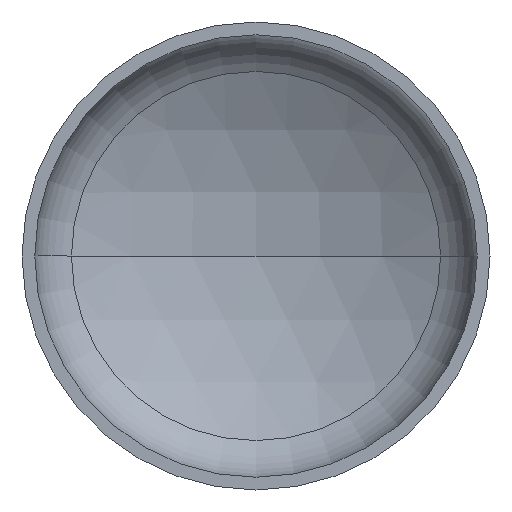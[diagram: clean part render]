
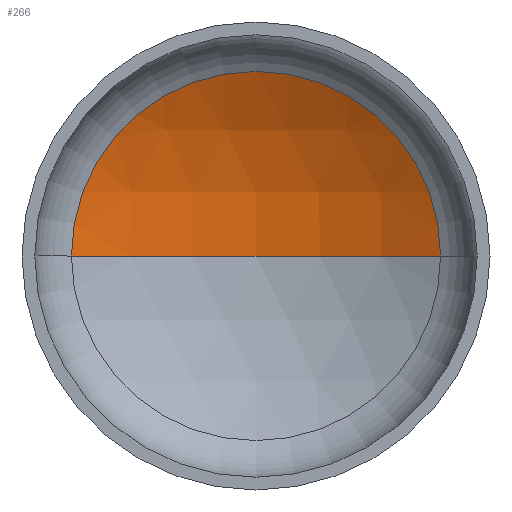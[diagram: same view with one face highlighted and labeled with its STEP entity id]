
A CAD part, front view. The second image highlights one B-rep face of the part: STEP entity #266.
In plain terms, the highlighted spherical face has radius 880 mm.
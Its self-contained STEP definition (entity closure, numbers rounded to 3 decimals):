
#10 = VERTEX_POINT ( 'NONE', #269 ) ;
#23 = EDGE_LOOP ( 'NONE', ( #116, #328, #131 ) ) ;
#34 = DIRECTION ( 'NONE',  ( 1., 0., 0. ) ) ;
#36 = DIRECTION ( 'NONE',  ( 0., 0., 1. ) ) ;
#40 = AXIS2_PLACEMENT_3D ( 'NONE', #173, #36, #34 ) ;
#42 = AXIS2_PLACEMENT_3D ( 'NONE', #388, #401, #399 ) ;
#47 = AXIS2_PLACEMENT_3D ( 'NONE', #256, #287, #286 ) ;
#52 = AXIS2_PLACEMENT_3D ( 'NONE', #220, #213, #218 ) ;
#57 = VERTEX_POINT ( 'NONE', #243 ) ;
#116 = ORIENTED_EDGE ( 'NONE', *, *, #198, .F. ) ;
#117 = VERTEX_POINT ( 'NONE', #315 ) ;
#122 = FACE_OUTER_BOUND ( 'NONE', #23, .T. ) ;
#131 = ORIENTED_EDGE ( 'NONE', *, *, #176, .T. ) ;
#173 = CARTESIAN_POINT ( 'NONE',  ( 0., -527.738, 0. ) ) ;
#176 = EDGE_CURVE ( 'NONE', #57, #117, #242, .T. ) ;
#185 = EDGE_CURVE ( 'NONE', #10, #57, #359, .T. ) ;
#198 = EDGE_CURVE ( 'NONE', #10, #117, #282, .T. ) ;
#213 = DIRECTION ( 'NONE',  ( 0., -1., 0. ) ) ;
#218 = DIRECTION ( 'NONE',  ( 1., 0., 0. ) ) ;
#220 = CARTESIAN_POINT ( 'NONE',  ( 0., 237.909, 0. ) ) ;
#242 = CIRCLE ( 'NONE', #52, 433.803 ) ;
#243 = CARTESIAN_POINT ( 'NONE',  ( 433.803, 237.909, 0. ) ) ;
#256 = CARTESIAN_POINT ( 'NONE',  ( 0., -527.738, 0. ) ) ;
#266 = ADVANCED_FACE ( 'NONE', ( #122 ), #274, .F. ) ;
#269 = CARTESIAN_POINT ( 'NONE',  ( 0., 352.262, 0. ) ) ;
#274 = SPHERICAL_SURFACE ( 'NONE', #42, 880. ) ;
#282 = CIRCLE ( 'NONE', #40, 880. ) ;
#286 = DIRECTION ( 'NONE',  ( -1., 0., 0. ) ) ;
#287 = DIRECTION ( 'NONE',  ( 0., 0., -1. ) ) ;
#315 = CARTESIAN_POINT ( 'NONE',  ( -433.803, 237.909, 0. ) ) ;
#328 = ORIENTED_EDGE ( 'NONE', *, *, #185, .T. ) ;
#359 = CIRCLE ( 'NONE', #47, 880. ) ;
#388 = CARTESIAN_POINT ( 'NONE',  ( 0., -527.738, 0. ) ) ;
#399 = DIRECTION ( 'NONE',  ( -1., 0., 0. ) ) ;
#401 = DIRECTION ( 'NONE',  ( 0., 0., -1. ) ) ;
